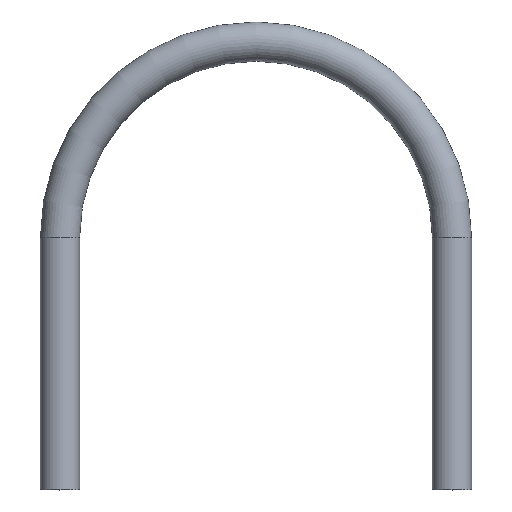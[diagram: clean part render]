
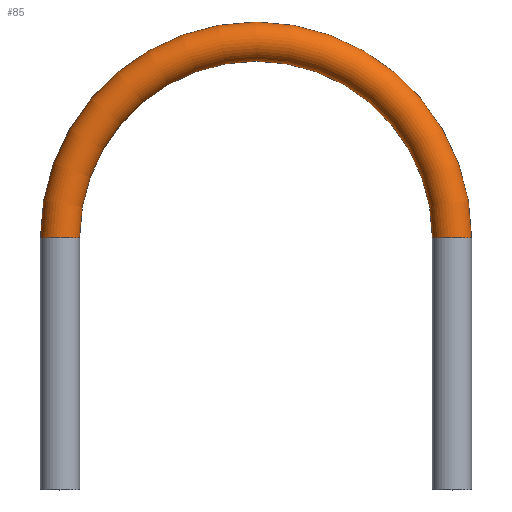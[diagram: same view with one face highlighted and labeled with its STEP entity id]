
A CAD part, top view. The second image highlights one B-rep face of the part: STEP entity #85.
In plain terms, the highlighted toroidal (fillet/blend) face has major radius 80 mm and minor radius 8 mm.
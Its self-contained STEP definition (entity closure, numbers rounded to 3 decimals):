
#17=TOROIDAL_SURFACE('',#114,80.,8.);
#19=FACE_OUTER_BOUND('',#24,.T.);
#24=EDGE_LOOP('',(#66,#67,#68,#69,#70,#71));
#34=CIRCLE('',#112,8.);
#35=CIRCLE('',#113,8.);
#36=CIRCLE('',#115,72.);
#37=CIRCLE('',#116,8.);
#38=CIRCLE('',#117,8.);
#43=VERTEX_POINT('',#161);
#44=VERTEX_POINT('',#163);
#45=VERTEX_POINT('',#167);
#46=VERTEX_POINT('',#169);
#52=EDGE_CURVE('',#43,#44,#34,.T.);
#53=EDGE_CURVE('',#44,#43,#35,.T.);
#54=EDGE_CURVE('',#43,#45,#36,.T.);
#55=EDGE_CURVE('',#45,#46,#37,.T.);
#56=EDGE_CURVE('',#46,#45,#38,.T.);
#66=ORIENTED_EDGE('',*,*,#53,.F.);
#67=ORIENTED_EDGE('',*,*,#52,.F.);
#68=ORIENTED_EDGE('',*,*,#54,.T.);
#69=ORIENTED_EDGE('',*,*,#55,.T.);
#70=ORIENTED_EDGE('',*,*,#56,.T.);
#71=ORIENTED_EDGE('',*,*,#54,.F.);
#85=ADVANCED_FACE('',(#19),#17,.T.);
#112=AXIS2_PLACEMENT_3D('',#164,#132,#133);
#113=AXIS2_PLACEMENT_3D('',#165,#134,#135);
#114=AXIS2_PLACEMENT_3D('',#166,#136,#137);
#115=AXIS2_PLACEMENT_3D('',#168,#138,#139);
#116=AXIS2_PLACEMENT_3D('',#170,#140,#141);
#117=AXIS2_PLACEMENT_3D('',#171,#142,#143);
#132=DIRECTION('center_axis',(0.,-1.,0.));
#133=DIRECTION('ref_axis',(-1.,0.,0.));
#134=DIRECTION('center_axis',(0.,-1.,0.));
#135=DIRECTION('ref_axis',(-1.,0.,0.));
#136=DIRECTION('center_axis',(0.,0.,1.));
#137=DIRECTION('ref_axis',(1.,0.,0.));
#138=DIRECTION('center_axis',(0.,0.,-1.));
#139=DIRECTION('ref_axis',(1.,0.,0.));
#140=DIRECTION('center_axis',(0.,1.,0.));
#141=DIRECTION('ref_axis',(1.,0.,0.));
#142=DIRECTION('center_axis',(0.,1.,0.));
#143=DIRECTION('ref_axis',(1.,0.,0.));
#161=CARTESIAN_POINT('',(-72.,0.,0.));
#163=CARTESIAN_POINT('',(-88.,0.,0.));
#164=CARTESIAN_POINT('Origin',(-80.,0.,0.));
#165=CARTESIAN_POINT('Origin',(-80.,0.,0.));
#166=CARTESIAN_POINT('Origin',(0.,0.,0.));
#167=CARTESIAN_POINT('',(72.,0.,0.));
#168=CARTESIAN_POINT('Origin',(0.,0.,0.));
#169=CARTESIAN_POINT('',(88.,0.,0.));
#170=CARTESIAN_POINT('Origin',(80.,0.,0.));
#171=CARTESIAN_POINT('Origin',(80.,0.,0.));
